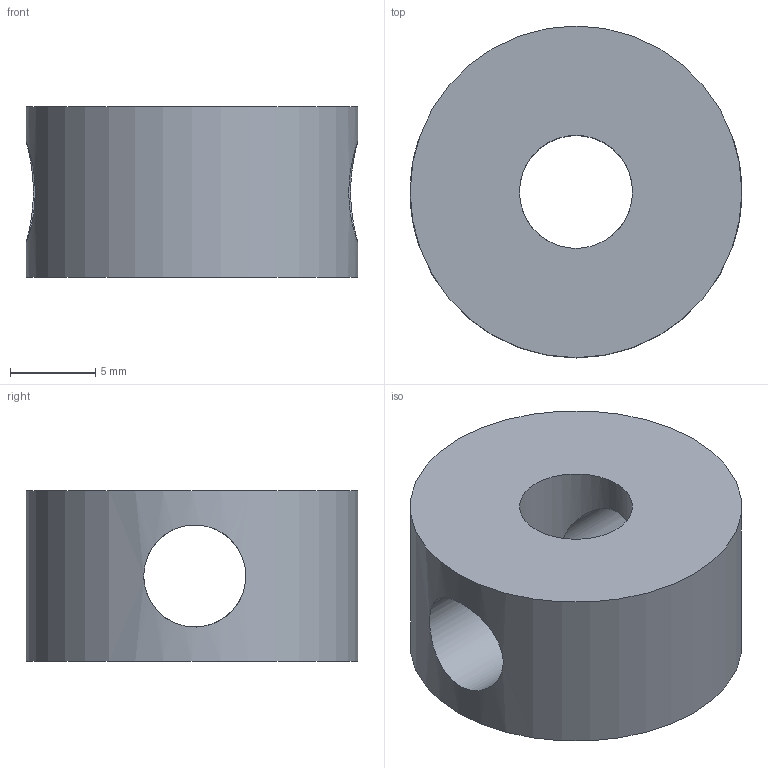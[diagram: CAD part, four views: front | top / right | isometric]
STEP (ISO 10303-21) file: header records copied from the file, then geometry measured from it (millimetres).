
FILE_DESCRIPTION(/* description */ ('Ghiera di regolazione'),/* implementation_level */ '2;1');
FILE_NAME(/* name */ 'C:\Users\Utente\Desktop\Standard finalmente ordinati\GRU000201.stp',/* time_stamp */ '2018-02-20T10:06:36+01:00',/* author */ ('Utente'),/* organization */ (''),/* preprocessor_version */ 'ST-DEVELOPER v16.1',/* originating_system */ 'Autodesk Inventor 2016',/* authorisation */ '');
FILE_SCHEMA (('AUTOMOTIVE_DESIGN { 1 0 10303 214 3 1 1 }'));
Length unit declared in the file: millimetre
Products named in the file (1): GRU000201
Bounding box: 19.5 x 19.5 x 10 mm (x, y, z)
Volume: 2260.7 mm3; surface area: 1491.8 mm2
Topology: 1 solids, 1 shells, 6 faces, 21 edges, 15 vertices
Faces by surface type: cylinder 4, plane 2
Full cylindrical faces by diameter (mm): 6 x2, 6.647 x1, 19.5 x1
Entity records: 345 total; most frequent: CARTESIAN_POINT 195, DIRECTION 22, ORIENTED_EDGE 18, EDGE_LOOP 16, AXIS2_PLACEMENT_3D 11, FACE_BOUND 10, VERTEX_POINT 9, EDGE_CURVE 9
